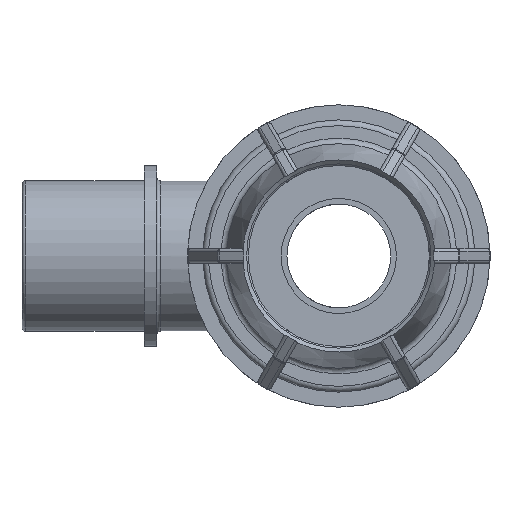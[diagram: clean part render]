
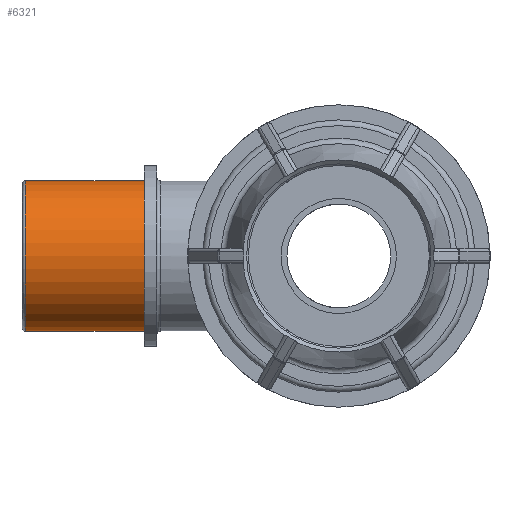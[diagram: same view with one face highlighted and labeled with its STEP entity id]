
A CAD part, left-side view. The second image highlights one B-rep face of the part: STEP entity #6321.
In plain terms, the highlighted cylindrical face has radius 10.477 mm (diameter 20.955 mm), a full revolution.
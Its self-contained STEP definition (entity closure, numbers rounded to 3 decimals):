
#1375=CIRCLE('',#7078,10.478);
#1377=CIRCLE('',#7081,10.478);
#1434=FACE_BOUND('',#2478,.T.);
#2030=FACE_OUTER_BOUND('',#2477,.T.);
#2477=EDGE_LOOP('',(#5776));
#2478=EDGE_LOOP('',(#5777));
#3031=VERTEX_POINT('',#12111);
#3033=VERTEX_POINT('',#12116);
#3949=EDGE_CURVE('',#3031,#3031,#1375,.T.);
#3951=EDGE_CURVE('',#3033,#3033,#1377,.T.);
#5776=ORIENTED_EDGE('',*,*,#3951,.T.);
#5777=ORIENTED_EDGE('',*,*,#3949,.F.);
#5913=CYLINDRICAL_SURFACE('',#7080,10.478);
#6321=ADVANCED_FACE('',(#2030,#1434),#5913,.T.);
#7078=AXIS2_PLACEMENT_3D('',#12112,#8949,#8950);
#7080=AXIS2_PLACEMENT_3D('',#12115,#8953,#8954);
#7081=AXIS2_PLACEMENT_3D('',#12117,#8955,#8956);
#8949=DIRECTION('center_axis',(0.,1.,0.));
#8950=DIRECTION('ref_axis',(1.,0.,0.));
#8953=DIRECTION('center_axis',(0.,1.,0.));
#8954=DIRECTION('ref_axis',(-1.,0.,0.));
#8955=DIRECTION('center_axis',(0.,1.,0.));
#8956=DIRECTION('ref_axis',(1.,0.,0.));
#12111=CARTESIAN_POINT('',(-10.478,43.52,0.));
#12112=CARTESIAN_POINT('Origin',(0.,43.52,0.));
#12115=CARTESIAN_POINT('Origin',(0.,35.5,0.));
#12116=CARTESIAN_POINT('',(-10.478,27.,0.));
#12117=CARTESIAN_POINT('Origin',(0.,27.,0.));
